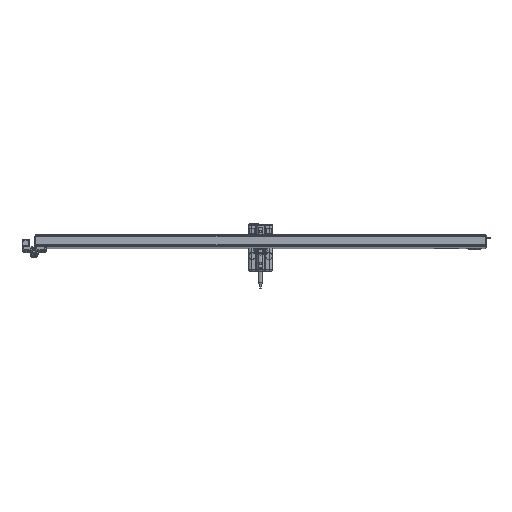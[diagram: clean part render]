
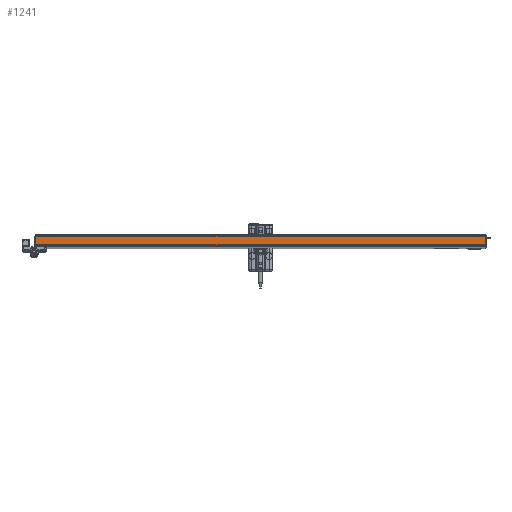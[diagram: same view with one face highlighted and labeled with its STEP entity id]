
A CAD part, top view. The second image highlights one B-rep face of the part: STEP entity #1241.
In plain terms, the highlighted planar face has unit normal (0, 0, 1).
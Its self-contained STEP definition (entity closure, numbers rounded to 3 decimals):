
#1241 = ADVANCED_FACE( '', ( #3018 ), #3019, .T. );
#3018 = FACE_OUTER_BOUND( '', #5578, .T. );
#3019 = PLANE( '', #5579 );
#5578 = EDGE_LOOP( '', ( #9259, #9260, #9261, #9262 ) );
#5579 = AXIS2_PLACEMENT_3D( '', #9263, #9264, #9265 );
#9259 = ORIENTED_EDGE( '', *, *, #14757, .T. );
#9260 = ORIENTED_EDGE( '', *, *, #14758, .F. );
#9261 = ORIENTED_EDGE( '', *, *, #14759, .F. );
#9262 = ORIENTED_EDGE( '', *, *, #14760, .T. );
#9263 = CARTESIAN_POINT( '', ( 2332.723, 0., 975.525 ) );
#9264 = DIRECTION( '', ( 0., 0., 1. ) );
#9265 = DIRECTION( '', ( 1., 0., 0. ) );
#14757 = EDGE_CURVE( '', #17830, #16513, #17831, .T. );
#14758 = EDGE_CURVE( '', #17832, #16513, #17833, .T. );
#14759 = EDGE_CURVE( '', #17834, #17832, #17835, .T. );
#14760 = EDGE_CURVE( '', #17834, #17830, #17836, .T. );
#16513 = VERTEX_POINT( '', #20175 );
#17830 = VERTEX_POINT( '', #22245 );
#17831 = LINE( '', #22246, #22247 );
#17832 = VERTEX_POINT( '', #22248 );
#17833 = LINE( '', #22249, #22250 );
#17834 = VERTEX_POINT( '', #22251 );
#17835 = LINE( '', #22252, #22253 );
#17836 = LINE( '', #22254, #22255 );
#20175 = CARTESIAN_POINT( '', ( -333.512, 15.278, 975.525 ) );
#22245 = CARTESIAN_POINT( '', ( 333.512, 15.278, 975.525 ) );
#22246 = CARTESIAN_POINT( '', ( 333.512, 15.278, 975.525 ) );
#22247 = VECTOR( '', #26376, 1000. );
#22248 = CARTESIAN_POINT( '', ( -333.512, 2.184, 975.525 ) );
#22249 = CARTESIAN_POINT( '', ( -333.512, 2.184, 975.525 ) );
#22250 = VECTOR( '', #26377, 1000. );
#22251 = CARTESIAN_POINT( '', ( 333.512, 2.184, 975.525 ) );
#22252 = CARTESIAN_POINT( '', ( 2332.723, 2.184, 975.525 ) );
#22253 = VECTOR( '', #26378, 1000. );
#22254 = CARTESIAN_POINT( '', ( 333.512, 2.184, 975.525 ) );
#22255 = VECTOR( '', #26379, 1000. );
#26376 = DIRECTION( '', ( -1., 0., 0. ) );
#26377 = DIRECTION( '', ( 0., 1., 0. ) );
#26378 = DIRECTION( '', ( -1., 0., 0. ) );
#26379 = DIRECTION( '', ( 0., 1., 0. ) );
